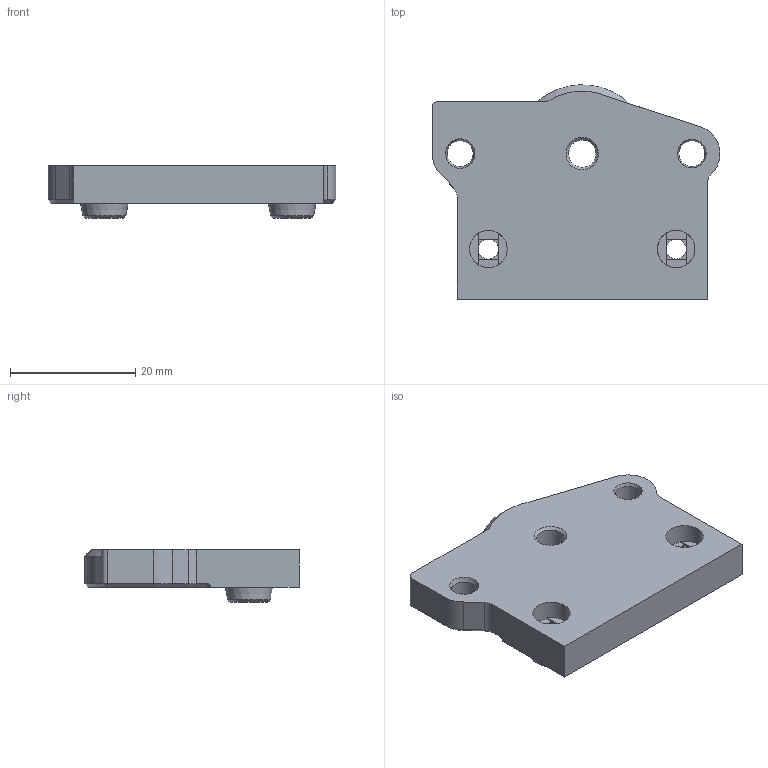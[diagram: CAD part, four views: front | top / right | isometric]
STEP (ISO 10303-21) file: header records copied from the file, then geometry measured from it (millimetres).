
FILE_DESCRIPTION(/* description */ (''),/* implementation_level */ '2;1');
FILE_NAME(/* name */ 'HMG7-Orbiter-V2.0-Rear-Mount.step',/* time_stamp */ '2022-11-01T21:44:01-07:00',/* author */ (''),/* organization */ (''),/* preprocessor_version */ 'ST-DEVELOPER v19.2',/* originating_system */ 'Autodesk Translation Framework v11.17.0.187',/* authorisation */ '');
FILE_SCHEMA (('AUTOMOTIVE_DESIGN { 1 0 10303 214 3 1 1 }'));
Length unit declared in the file: millimetre
Products named in the file (3): GEN_7_1.5; Orbiter_2.0; Orbiter_Mount
Assembly tree (2 placements, depth 3):
  GEN_7_1.5
    Orbiter_2.0
      Orbiter_Mount
Bounding box: 45.99 x 34.22 x 8.38 mm (x, y, z)
Volume: 7560.3 mm3; surface area: 3901.1 mm2
Topology: 1 solids, 1 shells, 71 faces, 176 edges, 109 vertices
Faces by surface type: plane 41, cone 15, cylinder 13, bspline 2
Full cylindrical faces by diameter (mm): 3.2 x2, 4.15 x2, 4.4 x1, 6 x2
Entity records: 2327 total; most frequent: CARTESIAN_POINT 533, DIRECTION 371, ORIENTED_EDGE 352, EDGE_CURVE 176, AXIS2_PLACEMENT_3D 131, LINE 109, VECTOR 109, VERTEX_POINT 109
